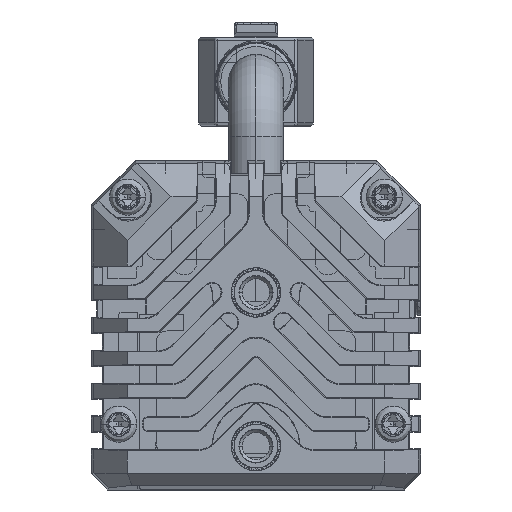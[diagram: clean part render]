
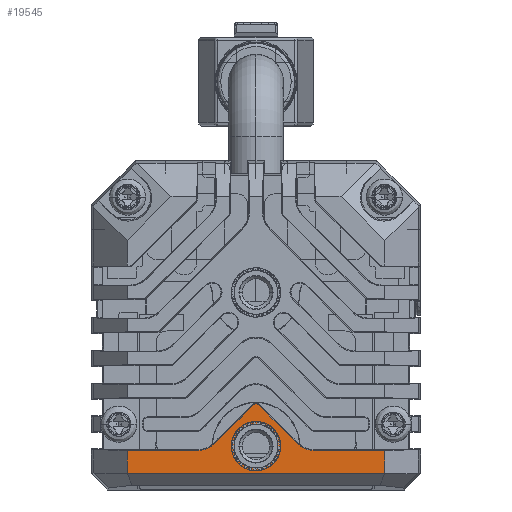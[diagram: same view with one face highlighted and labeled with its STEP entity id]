
A CAD part, left-side view. The second image highlights one B-rep face of the part: STEP entity #19545.
In plain terms, the highlighted planar face has unit normal (-1, 0, 0) as drawn and (1, 0, 0) by its records, which use the part's own axes.
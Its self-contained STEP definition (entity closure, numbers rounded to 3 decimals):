
#12454=CARTESIAN_POINT('',(5.,0.,7.527));
#12455=DIRECTION('',(1.,0.,0.));
#12456=DIRECTION('',(0.,0.707,0.707));
#12457=AXIS2_PLACEMENT_3D('',#12454,#12455,#12456);
#12462=DIRECTION('',(0.,0.707,-0.707));
#12463=VECTOR('',#12462,5.013);
#12464=CARTESIAN_POINT('',(5.,0.242,7.769));
#12465=LINE('',#12464,#12463);
#12469=DIRECTION('',(0.,-1.,0.));
#12470=VECTOR('',#12469,6.438);
#12471=CARTESIAN_POINT('',(5.,11.75,3.593));
#12472=LINE('',#12471,#12470);
#12476=DIRECTION('',(0.,0.,1.));
#12477=VECTOR('',#12476,2.093);
#12478=CARTESIAN_POINT('',(5.,11.75,1.5));
#12479=LINE('',#12478,#12477);
#12483=DIRECTION('',(0.,1.,0.));
#12484=VECTOR('',#12483,23.5);
#12485=CARTESIAN_POINT('',(5.,-11.75,1.5));
#12486=LINE('',#12485,#12484);
#12490=DIRECTION('',(0.,0.,-1.));
#12491=VECTOR('',#12490,2.093);
#12492=CARTESIAN_POINT('',(5.,-11.75,3.593));
#12493=LINE('',#12492,#12491);
#12497=DIRECTION('',(0.,1.,0.));
#12498=VECTOR('',#12497,6.438);
#12499=CARTESIAN_POINT('',(5.,-11.75,3.593));
#12500=LINE('',#12499,#12498);
#12504=DIRECTION('',(0.,0.707,0.707));
#12505=VECTOR('',#12504,5.013);
#12506=CARTESIAN_POINT('',(5.,-3.787,4.225));
#12507=LINE('',#12506,#12505);
#12511=CARTESIAN_POINT('',(5.,0.,4.));
#12512=DIRECTION('',(1.,0.,0.));
#12513=DIRECTION('',(0.,1.,0.));
#12514=AXIS2_PLACEMENT_3D('',#12511,#12512,#12513);
#12519=CARTESIAN_POINT('',(5.,0.,4.));
#12520=DIRECTION('',(1.,0.,0.));
#12521=DIRECTION('',(0.,-1.,0.));
#12522=AXIS2_PLACEMENT_3D('',#12519,#12520,#12521);
#13248=CARTESIAN_POINT('',(5.,-5.312,5.75));
#13249=DIRECTION('',(-1.,0.,0.));
#13250=DIRECTION('',(0.,0.707,-0.707));
#13251=AXIS2_PLACEMENT_3D('',#13248,#13249,#13250);
#16767=CARTESIAN_POINT('',(5.,5.312,5.75));
#16768=DIRECTION('',(-1.,0.,0.));
#16769=DIRECTION('',(0.,0.,-1.));
#16770=AXIS2_PLACEMENT_3D('',#16767,#16768,#16769);
#18440=CARTESIAN_POINT('',(5.,2.,4.));
#18441=CARTESIAN_POINT('',(5.,-2.,4.));
#18442=VERTEX_POINT('',#18440);
#18443=VERTEX_POINT('',#18441);
#18444=CARTESIAN_POINT('',(5.,-11.75,1.5));
#18445=CARTESIAN_POINT('',(5.,11.75,1.5));
#18446=VERTEX_POINT('',#18444);
#18447=VERTEX_POINT('',#18445);
#18546=CARTESIAN_POINT('',(5.,5.312,3.593));
#18547=VERTEX_POINT('',#18546);
#18548=CARTESIAN_POINT('',(5.,3.787,4.225));
#18549=VERTEX_POINT('',#18548);
#18554=CARTESIAN_POINT('',(5.,-3.787,4.225));
#18555=VERTEX_POINT('',#18554);
#18556=CARTESIAN_POINT('',(5.,-5.312,3.593));
#18557=VERTEX_POINT('',#18556);
#18634=CARTESIAN_POINT('',(5.,-11.75,3.593));
#18635=VERTEX_POINT('',#18634);
#18636=CARTESIAN_POINT('',(5.,11.75,3.593));
#18637=VERTEX_POINT('',#18636);
#18654=CARTESIAN_POINT('',(5.,0.242,7.769));
#18655=CARTESIAN_POINT('',(5.,-0.242,7.769));
#18656=VERTEX_POINT('',#18654);
#18657=VERTEX_POINT('',#18655);
#19512=CARTESIAN_POINT('',(5.,0.,0.));
#19513=DIRECTION('',(1.,0.,0.));
#19514=DIRECTION('',(0.,1.,0.));
#19515=AXIS2_PLACEMENT_3D('',#19512,#19513,#19514);
#19516=PLANE('',#19515);
#19518=ORIENTED_EDGE('',*,*,#19517,.F.);
#19520=ORIENTED_EDGE('',*,*,#19519,.T.);
#19522=ORIENTED_EDGE('',*,*,#19521,.F.);
#19524=ORIENTED_EDGE('',*,*,#19523,.F.);
#19526=ORIENTED_EDGE('',*,*,#19525,.F.);
#19528=ORIENTED_EDGE('',*,*,#19527,.F.);
#19530=ORIENTED_EDGE('',*,*,#19529,.F.);
#19532=ORIENTED_EDGE('',*,*,#19531,.T.);
#19534=ORIENTED_EDGE('',*,*,#19533,.F.);
#19536=ORIENTED_EDGE('',*,*,#19535,.T.);
#19537=EDGE_LOOP('',(#19518,#19520,#19522,#19524,#19526,#19528,#19530,#19532,
#19534,#19536));
#19538=FACE_OUTER_BOUND('',#19537,.F.);
#19540=ORIENTED_EDGE('',*,*,#19539,.T.);
#19542=ORIENTED_EDGE('',*,*,#19541,.T.);
#19543=EDGE_LOOP('',(#19540,#19542));
#19544=FACE_BOUND('',#19543,.F.);
#12458=CIRCLE('',#12457,0.343);
#12515=CIRCLE('',#12514,2.);
#12523=CIRCLE('',#12522,2.);
#13252=CIRCLE('',#13251,2.157);
#16771=CIRCLE('',#16770,2.157);
#19517=EDGE_CURVE('',#18656,#18657,#12458,.T.);
#19519=EDGE_CURVE('',#18656,#18549,#12465,.T.);
#19521=EDGE_CURVE('',#18547,#18549,#16771,.T.);
#19523=EDGE_CURVE('',#18637,#18547,#12472,.T.);
#19525=EDGE_CURVE('',#18447,#18637,#12479,.T.);
#19527=EDGE_CURVE('',#18446,#18447,#12486,.T.);
#19529=EDGE_CURVE('',#18635,#18446,#12493,.T.);
#19531=EDGE_CURVE('',#18635,#18557,#12500,.T.);
#19533=EDGE_CURVE('',#18555,#18557,#13252,.T.);
#19535=EDGE_CURVE('',#18555,#18657,#12507,.T.);
#19539=EDGE_CURVE('',#18442,#18443,#12515,.T.);
#19541=EDGE_CURVE('',#18443,#18442,#12523,.T.);
#19545=ADVANCED_FACE('',(#19538,#19544),#19516,.T.);
